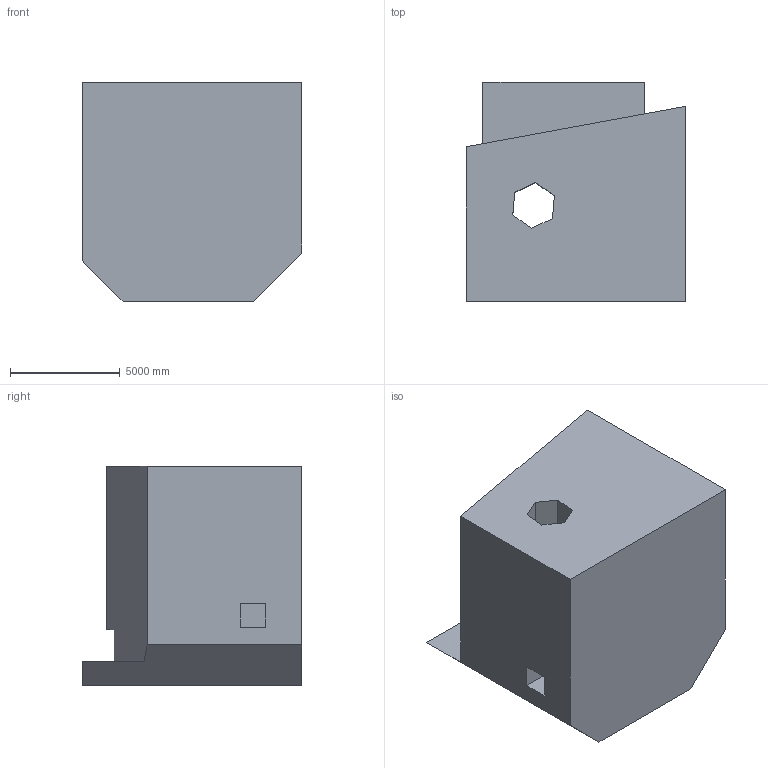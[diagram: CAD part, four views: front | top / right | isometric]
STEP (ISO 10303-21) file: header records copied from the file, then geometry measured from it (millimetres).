
FILE_DESCRIPTION (( 'STEP AP203' ), '1' );
FILE_NAME ('648.STEP', '2022-07-29T12:17:44', ( 'user' ), ( '' ), 'SwSTEP 2.0', 'SolidWorks 2021', '' );
FILE_SCHEMA (( 'CONFIG_CONTROL_DESIGN' ));
Length unit declared in the file: centimetre
Products named in the file (1): 648
Bounding box: 10000 x 10000 x 10000 mm (x, y, z)
Volume: 690227699248.3 mm3; surface area: 660486885.2 mm2
Topology: 1 solids, 1 shells, 35 faces, 99 edges, 66 vertices
Faces by surface type: plane 35
Entity records: 1198 total; most frequent: CARTESIAN_POINT 201, ORIENTED_EDGE 198, DIRECTION 171, VECTOR 99, LINE 99, EDGE_CURVE 99, VERTEX_POINT 66, EDGE_LOOP 39
